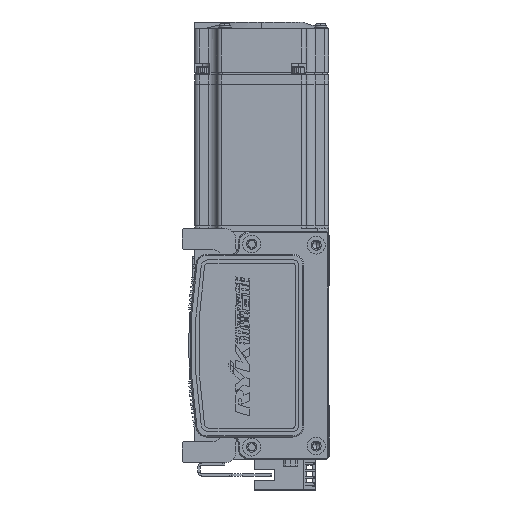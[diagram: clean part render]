
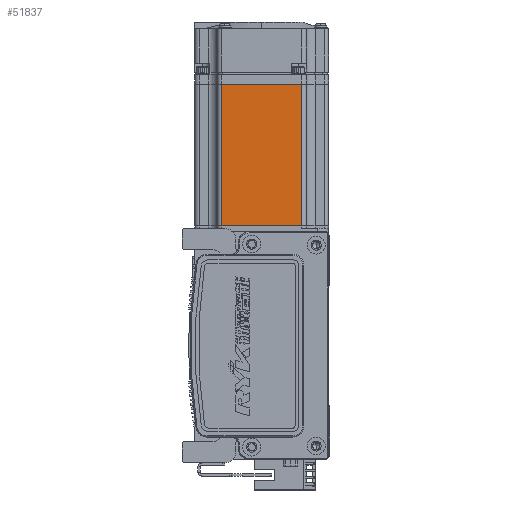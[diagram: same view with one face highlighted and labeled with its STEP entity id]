
A CAD part, left-side view. The second image highlights one B-rep face of the part: STEP entity #51837.
In plain terms, the highlighted planar face has unit normal (-1, 0, 0) as drawn and (0, 0, -1) by its records, which use the part's own axes.
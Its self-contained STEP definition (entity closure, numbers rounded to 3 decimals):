
#814 = CARTESIAN_POINT ( 'NONE',  ( -70.95, 25., -30. ) ) ;
#1270 = ORIENTED_EDGE ( 'NONE', *, *, #29833, .T. ) ;
#1895 = PLANE ( 'NONE',  #33915 ) ;
#2737 = ORIENTED_EDGE ( 'NONE', *, *, #28991, .T. ) ;
#4056 = DIRECTION ( 'NONE',  ( 0., -1., 0. ) ) ;
#6351 = VERTEX_POINT ( 'NONE', #26015 ) ;
#8913 = CARTESIAN_POINT ( 'NONE',  ( -7.75, 25., -30. ) ) ;
#12077 = DIRECTION ( 'NONE',  ( 0., 0., -1. ) ) ;
#12693 = DIRECTION ( 'NONE',  ( -1., 0., 0. ) ) ;
#15152 = DIRECTION ( 'NONE',  ( 1., 0., 0. ) ) ;
#16442 = LINE ( 'NONE', #8913, #51588 ) ;
#16808 = VERTEX_POINT ( 'NONE', #30007 ) ;
#16978 = VERTEX_POINT ( 'NONE', #27707 ) ;
#18378 = EDGE_CURVE ( 'NONE', #20310, #16978, #32527, .T. ) ;
#19816 = VECTOR ( 'NONE', #15152, 1000. ) ;
#20310 = VERTEX_POINT ( 'NONE', #22684 ) ;
#22684 = CARTESIAN_POINT ( 'NONE',  ( -70.95, 18., -30. ) ) ;
#26015 = CARTESIAN_POINT ( 'NONE',  ( -7.75, -18., -30. ) ) ;
#27707 = CARTESIAN_POINT ( 'NONE',  ( -7.75, 18., -30. ) ) ;
#27807 = CARTESIAN_POINT ( 'NONE',  ( -6.5, -18., -30. ) ) ;
#28991 = EDGE_CURVE ( 'NONE', #16808, #20310, #46064, .T. ) ;
#29833 = EDGE_CURVE ( 'NONE', #16978, #6351, #16442, .T. ) ;
#30007 = CARTESIAN_POINT ( 'NONE',  ( -70.95, -18., -30. ) ) ;
#32527 = LINE ( 'NONE', #35643, #19816 ) ;
#33024 = DIRECTION ( 'NONE',  ( -1., 0., 0. ) ) ;
#33915 = AXIS2_PLACEMENT_3D ( 'NONE', #42603, #12077, #33024 ) ;
#35643 = CARTESIAN_POINT ( 'NONE',  ( -6.5, 18., -30. ) ) ;
#38623 = VECTOR ( 'NONE', #12693, 1000. ) ;
#39420 = ORIENTED_EDGE ( 'NONE', *, *, #52375, .T. ) ;
#40276 = FACE_OUTER_BOUND ( 'NONE', #57058, .T. ) ;
#41332 = DIRECTION ( 'NONE',  ( 0., 1., 0. ) ) ;
#41987 = ORIENTED_EDGE ( 'NONE', *, *, #18378, .T. ) ;
#42603 = CARTESIAN_POINT ( 'NONE',  ( -6.5, 25., -30. ) ) ;
#46064 = LINE ( 'NONE', #814, #57991 ) ;
#51588 = VECTOR ( 'NONE', #4056, 1000. ) ;
#51837 = ADVANCED_FACE ( 'NONE', ( #40276 ), #1895, .T. ) ;
#52098 = LINE ( 'NONE', #27807, #38623 ) ;
#52375 = EDGE_CURVE ( 'NONE', #6351, #16808, #52098, .T. ) ;
#57058 = EDGE_LOOP ( 'NONE', ( #1270, #39420, #2737, #41987 ) ) ;
#57991 = VECTOR ( 'NONE', #41332, 1000. ) ;
